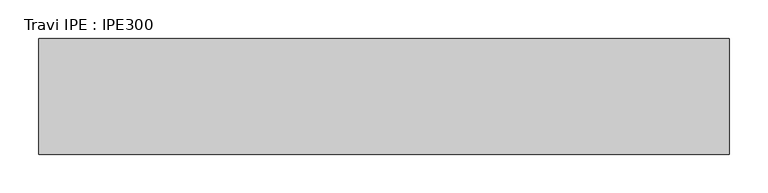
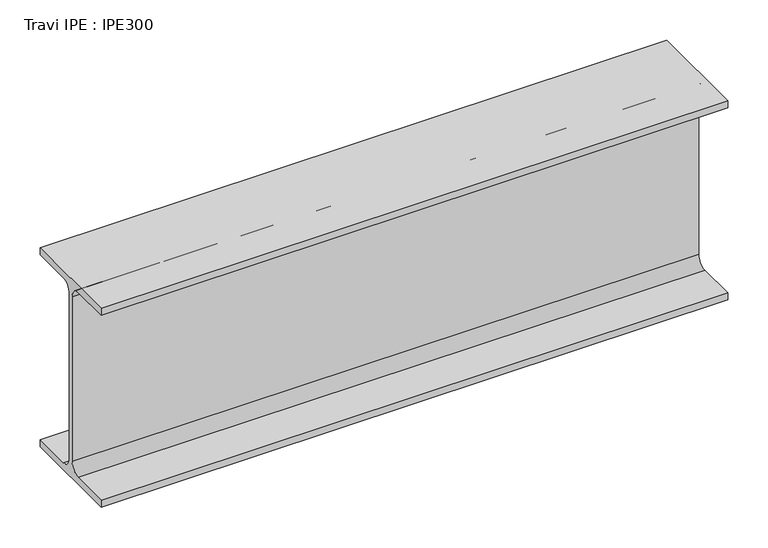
"""IFC4 building model written with IfcOpenShell, lengths in millimetres: beam geometry, Travi IPE : IPE300."""

import ifcopenshell
import ifcopenshell.guid

model = None  # the IFC model being written
_history = None  # IfcOwnerHistory: only IFC2X3 demands one
_inside = {}  # id of a spatial element -> (the spatial element, [elements in it])
_under = {}  # id of a project, library or spatial element -> (it, [spatial elements below it])
_declared = {}  # id of a project -> (the project, [libraries it declares])
_typed = {}  # id of a type object -> (the type object, [elements of that type])
_made_of = {}  # id of a material, layer set ... -> (it, [elements and type objects made of it])


def new_model(schema):
    """Start an empty IFC model of exactly this schema.

    Asked for "IFC4X3", IfcOpenShell would pick the latest addendum, in which some entities
    have other attributes; the version numbers below select the first issue.
    IFC2X3 requires an IfcOwnerHistory on every rooted entity: one is made here for all.
    """
    global model, _history
    if schema == "IFC4X3":
        model = ifcopenshell.file(schema_version=(4, 3, 0, 0))
    else:
        model = ifcopenshell.file(schema=schema)
    _inside.clear()
    _under.clear()
    _declared.clear()
    _typed.clear()
    _made_of.clear()
    _history = None
    if model.schema == "IFC2X3":
        org = make("IfcOrganization", Name="unknown")
        user = make(
            "IfcPersonAndOrganization",
            ThePerson=make("IfcPerson", FamilyName="unknown"),
            TheOrganization=org,
        )
        app = make(
            "IfcApplication",
            ApplicationDeveloper=org,
            Version="unknown",
            ApplicationFullName="unknown",
            ApplicationIdentifier="unknown",
        )
        _history = make(
            "IfcOwnerHistory",
            OwningUser=user,
            OwningApplication=app,
            ChangeAction="ADDED",
            CreationDate=0,
        )
    return model


def make(cls, **values):
    """One entity of the class cls with the attributes given. An attribute that is None is left unset."""
    return model.create_entity(
        cls, **{name: value for name, value in values.items() if value is not None}
    )


def rooted(cls, **values):
    """An entity with a GlobalId (a new one), such as an element, a storey or a relation."""
    return make(cls, GlobalId=ifcopenshell.guid.new(), OwnerHistory=_history, **values)


def si_unit(unit_type, name, prefix=None):
    """IfcSIUnit, for example si_unit("LENGTHUNIT", "METRE", prefix="MILLI")."""
    return make("IfcSIUnit", UnitType=unit_type, Prefix=prefix, Name=name)


def assignment(units):
    """IfcUnitAssignment: the units of a project."""
    return None if units is None else make("IfcUnitAssignment", Units=units)


def point(xyz):
    """IfcCartesianPoint."""
    return None if xyz is None else make("IfcCartesianPoint", Coordinates=xyz)


def direction(xyz):
    """IfcDirection."""
    return None if xyz is None else make("IfcDirection", DirectionRatios=xyz)


def frame(location, z_axis=None, x_axis=None):
    """IfcAxis2Placement3D, a coordinate frame: its origin and axes. An axis left out is left unset."""
    return make(
        "IfcAxis2Placement3D",
        Location=point(location),
        Axis=direction(z_axis),
        RefDirection=direction(x_axis),
    )


def frame_2d(location, x_axis=None):
    """IfcAxis2Placement2D, a coordinate frame in the plane: its origin and x axis."""
    return make(
        "IfcAxis2Placement2D", Location=point(location), RefDirection=direction(x_axis)
    )


def origin():
    """The frame at (0, 0, 0) with its axes left unset."""
    return frame((0.0, 0.0, 0.0))


def place(relative_to, where):
    """IfcLocalPlacement: puts the frame where relative to a parent placement (None: the world)."""
    return make(
        "IfcLocalPlacement", PlacementRelTo=relative_to, RelativePlacement=where
    )


def context(
    kind, dimensions, precision=None, world=None, true_north=None, identifier=None
):
    """IfcGeometricRepresentationContext, for example the 3D "Model" context."""
    return make(
        "IfcGeometricRepresentationContext",
        ContextIdentifier=identifier,
        ContextType=kind,
        CoordinateSpaceDimension=dimensions,
        Precision=precision,
        WorldCoordinateSystem=world,
        TrueNorth=true_north,
    )


def project(units=None, contexts=None):
    """IfcProject with its units and contexts."""
    return rooted(
        "IfcProject",
        Name="project",
        RepresentationContexts=contexts,
        UnitsInContext=assignment(units),
    )


def spatial(cls, under=None, at=None, **own):
    """A site, building, storey or space (cls), placed at a placement, below another one or the project."""
    s = rooted(cls, ObjectPlacement=at, **own)
    if under is not None:
        _under.setdefault(under.id(), (under, []))[1].append(s)
    return s


def polyline(points):
    """IfcPolyline through the points."""
    return make("IfcPolyline", Points=[point(p) for p in points])


def circle_curve(where, radius):
    """IfcCircle in the frame where."""
    return make("IfcCircle", Position=where, Radius=radius)


def trimmed(basis, trim1, trim2, sense, master):
    """IfcTrimmedCurve: the piece of a basis curve between two trims."""
    return make(
        "IfcTrimmedCurve",
        BasisCurve=basis,
        Trim1=trim1,
        Trim2=trim2,
        SenseAgreement=sense,
        MasterRepresentation=master,
    )


def segment(curve, same_sense, transition):
    """IfcCompositeCurveSegment."""
    return make(
        "IfcCompositeCurveSegment",
        Transition=transition,
        SameSense=same_sense,
        ParentCurve=curve,
    )


def composite_curve(segments, self_intersect=None):
    """IfcCompositeCurve: segments joined end to end."""
    return make("IfcCompositeCurve", Segments=segments, SelfIntersect=self_intersect)


def outline(outer, holes=None, kind="AREA"):
    """IfcArbitraryClosedProfileDef: a profile drawn as a closed curve; with holes, ...WithVoids."""
    if holes is None:
        return make("IfcArbitraryClosedProfileDef", ProfileType=kind, OuterCurve=outer)
    return make(
        "IfcArbitraryProfileDefWithVoids",
        ProfileType=kind,
        OuterCurve=outer,
        InnerCurves=holes,
    )


def extrude(swept, where, along, depth):
    """IfcExtrudedAreaSolid: the profile swept, set in the frame where, extruded along a direction by depth."""
    return make(
        "IfcExtrudedAreaSolid",
        SweptArea=swept,
        Position=where,
        ExtrudedDirection=direction(along),
        Depth=depth,
    )


def shape(context_of_items, identifier, shape_type, items):
    """IfcShapeRepresentation: the items that make up one representation, for example the "Body"."""
    return make(
        "IfcShapeRepresentation",
        ContextOfItems=context_of_items,
        RepresentationIdentifier=identifier,
        RepresentationType=shape_type,
        Items=items,
    )


def source(mapping_origin, context_of_items, identifier, shape_type, items):
    """IfcRepresentationMap: a shape defined once, which mapped items show again and again."""
    return make(
        "IfcRepresentationMap",
        MappingOrigin=mapping_origin,
        MappedRepresentation=shape(context_of_items, identifier, shape_type, items),
    )


def transform(
    local_origin,
    x_axis=None,
    y_axis=None,
    z_axis=None,
    scale=None,
    scale2=None,
    scale3=None,
    uniform=True,
):
    """IfcCartesianTransformationOperator3D, or its non-uniform kind. x_axis, y_axis, z_axis: its Axis1, 2, 3."""
    if uniform:
        return make(
            "IfcCartesianTransformationOperator3D",
            Axis1=direction(x_axis),
            Axis2=direction(y_axis),
            LocalOrigin=point(local_origin),
            Scale=scale,
            Axis3=direction(z_axis),
        )
    return make(
        "IfcCartesianTransformationOperator3DnonUniform",
        Axis1=direction(x_axis),
        Axis2=direction(y_axis),
        LocalOrigin=point(local_origin),
        Scale=scale,
        Axis3=direction(z_axis),
        Scale2=scale2,
        Scale3=scale3,
    )


def mapped(mapping_source, mapping_target):
    """IfcMappedItem: shows the shape of a source again, moved by a transform."""
    return make(
        "IfcMappedItem", MappingSource=mapping_source, MappingTarget=mapping_target
    )


def made_of(thing, what):
    """Note that an element or type object is made of a material, layer set ...; save() writes the relation."""
    if what is not None:
        _made_of.setdefault(what.id(), (what, []))[1].append(thing)
    return thing


def element(
    cls,
    number,
    at=None,
    inside=None,
    cuts=None,
    type_object=None,
    material=None,
    context=None,
    identifier="Body",
    shape_type=None,
    held_by="IfcProductDefinitionShape",
    body=None,
    shapes=None,
    **own,
):
    """One element of the class cls, such as IfcWall. Its Tag is "e" and its number.

    at: its placement. inside: the storey or other place that contains it. cuts: it is an
    opening in that element (IfcRelVoidsElement). A single representation is given by context,
    identifier, shape_type and body (its items); several are given by shapes. held_by: the class
    of the entity that holds the representations. save() writes the other relations.
    """
    e = rooted(cls, Tag="e%d" % number, ObjectPlacement=at, **own)
    if body is not None:
        shapes = [shape(context, identifier, shape_type, body)]
    if shapes is not None:
        e.Representation = make(held_by, Representations=shapes)
    if inside is not None:
        _inside.setdefault(inside.id(), (inside, []))[1].append(e)
    if cuts is not None:
        rooted(
            "IfcRelVoidsElement", RelatingBuildingElement=cuts, RelatedOpeningElement=e
        )
    if type_object is not None:
        _typed.setdefault(type_object.id(), (type_object, []))[1].append(e)
    return made_of(e, material)


def aggregate(whole, parts):
    """IfcRelAggregates: a whole, such as a stair, and the parts it consists of."""
    return rooted("IfcRelAggregates", RelatingObject=whole, RelatedObjects=parts)


def save(model, path):
    """Write the relations noted so far, then the file.

    IfcRelAggregates (storeys below a building ...), IfcRelContainedInSpatialStructure (elements
    in a storey), IfcRelDefinesByType, IfcRelAssociatesMaterial and IfcRelDeclares: one each for
    every whole, place, type object, material and project.
    """
    for whole, parts in _under.values():
        aggregate(whole, parts)
    for where, things in _inside.values():
        rooted(
            "IfcRelContainedInSpatialStructure",
            RelatedElements=things,
            RelatingStructure=where,
        )
    for kind, things in _typed.values():
        rooted("IfcRelDefinesByType", RelatedObjects=things, RelatingType=kind)
    for what, things in _made_of.values():
        rooted("IfcRelAssociatesMaterial", RelatedObjects=things, RelatingMaterial=what)
    for by, libraries in _declared.values():
        rooted("IfcRelDeclares", RelatingContext=by, RelatedDefinitions=libraries)
    model.write(path)


def travi_ipe_ipe300_68ba71f3(model_context):
    return source(origin(), model_context, "Body", "SweptSolid", [
        extrude(outline(composite_curve([segment(polyline([(75.0, -139.3), (75.0, -150.0), (-75.0, -150.0), (-75.0, -139.3), (-18.55, -139.3)]), True, "CONTINUOUS"), segment(trimmed(circle_curve(frame_2d((-18.55, -124.3)), 15.0), [point((-18.55, -139.3))], [point((-3.55, -124.3))], True, "CARTESIAN"), True, "CONTINUOUS"), segment(polyline([(-3.55, -124.3), (-3.55, 124.3)]), True, "CONTINUOUS"), segment(trimmed(circle_curve(frame_2d((-18.55, 124.3)), 15.0), [point((-3.55, 124.3))], [point((-18.55, 139.3))], True, "CARTESIAN"), True, "CONTINUOUS"), segment(polyline([(-18.55, 139.3), (-75.0, 139.3), (-75.0, 150.0), (75.0, 150.0), (75.0, 139.3), (18.55, 139.3)]), True, "CONTINUOUS"), segment(trimmed(circle_curve(frame_2d((18.55, 124.3)), 15.0), [point((18.55, 139.3))], [point((3.55, 124.3))], True, "CARTESIAN"), True, "CONTINUOUS"), segment(polyline([(3.55, 124.3), (3.55, -124.3)]), True, "CONTINUOUS"), segment(trimmed(circle_curve(frame_2d((18.55, -124.3)), 15.0), [point((3.55, -124.3))], [point((18.55, -139.3))], True, "CARTESIAN"), True, "CONTINUOUS"), segment(polyline([(18.55, -139.3), (75.0, -139.3)]), True, "CONTINUOUS")], self_intersect=False)), frame((-470.5, 0.0, 0.0), z_axis=(1.0, 0.0, 0.0), x_axis=(0.0, 1.0, 0.0)), (0.0, 0.0, 1.0), 893.0),
    ])


if __name__ == "__main__":
    model = new_model("IFC4")
    model_context = context("Model", 3, world=origin())
    ifc_project = project(units=[si_unit("LENGTHUNIT", "METRE", prefix="MILLI")], contexts=[model_context])
    site = spatial("IfcSite", under=ifc_project)
    building = spatial("IfcBuilding", under=site)
    placement = place(None, origin())
    travi_ipe_ipe300_shape = travi_ipe_ipe300_68ba71f3(model_context)
    element("IfcBeam", 1, ObjectType="Travi IPE : IPE300", at=placement, inside=building, context=model_context, shape_type="MappedRepresentation", body=[
        mapped(travi_ipe_ipe300_shape, transform((0.0, 0.0, 0.0), x_axis=(1.0, 0.0, 0.0), y_axis=(0.0, 1.0, 0.0), z_axis=(0.0, 0.0, 1.0))),
    ])
    save(model, "model.ifc")
